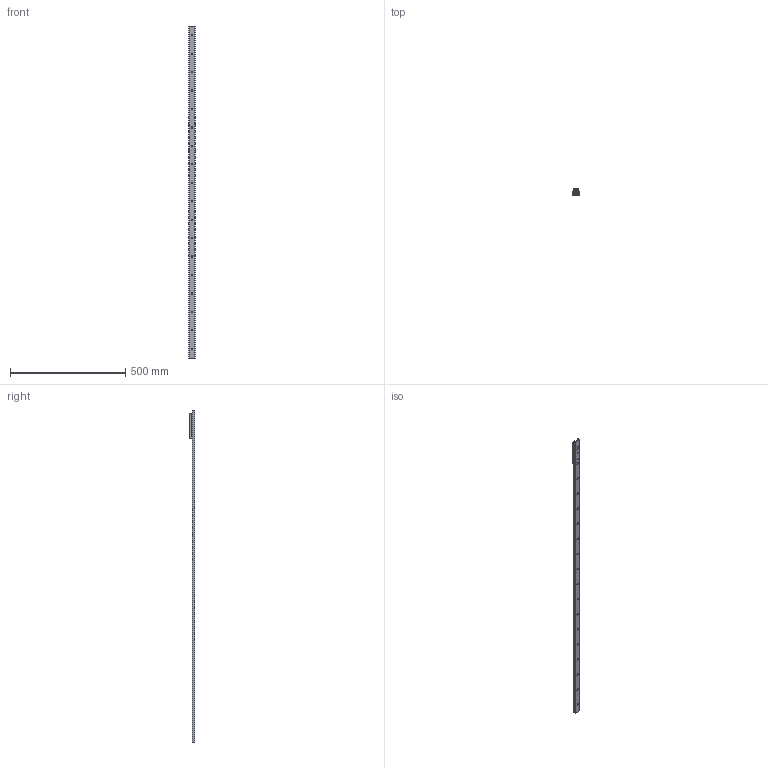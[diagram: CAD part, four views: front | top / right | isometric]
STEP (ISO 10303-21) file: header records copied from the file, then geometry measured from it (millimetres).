
FILE_DESCRIPTION( ( 'STEP AP214' ), '1' );
FILE_NAME( 'p:/temp/worker_18/temp/exporttempdir_5800_515_ujAms/format_1/TGV-01440_1_RV28G-3.stp', '2020-11-20T16:35:59', ( 'License CC BY-ND 4.0' ), ( 'CADENAS' ), ' ', 'PARTsolutions', ' ' );
FILE_SCHEMA( ( 'AUTOMOTIVE_DESIGN { 1 0 10303 214 1 1 1 1 }' ) );
Length unit declared in the file: millimetre
Products named in the file (6): TGV-01440/1/RV28G-3; _TGV28-1440-(3-1); _RV28G-3-slider; _RGNV28R; _RGAV28R; _WR28G-01
Assembly tree (7 placements, depth 2):
  TGV-01440/1/RV28G-3
    _TGV28-1440-(3-1)
    _RV28G-3-slider
    _RGNV28R  x2
    _RGAV28R
    _WR28G-01  x2
Bounding box: 28 x 24 x 1440 mm (x, y, z)
Volume: 244401 mm3; surface area: 155690.5 mm2
Topology: 7 solids, 7 shells, 1048 faces, 2735 edges, 1783 vertices
Faces by surface type: plane 657, cylinder 298, cone 58, bspline 26, torus 9
Full cylindrical faces by diameter (mm): 1.27 x4, 2 x2, 2.5 x6, 4 x4, 4.134 x4, 4.2 x3, 5 x3, 5.5 x3, 5.75 x18, 7 x5, 7.5 x1, 8 x6, 10.8 x3, 17 x3, 20.75 x6
Entity records: 25311 total; most frequent: CARTESIAN_POINT 4019, DIRECTION 3380, ORIENTED_EDGE 3102, EDGE_CURVE 1551, AXIS2_PLACEMENT_3D 1295, VERTEX_POINT 1083, EDGE_LOOP 899, LINE 790
